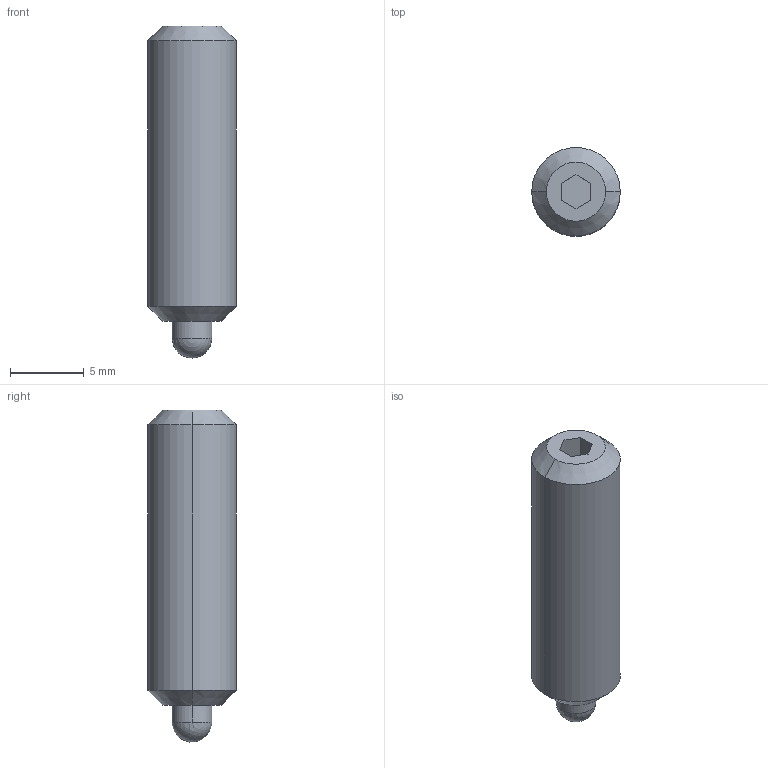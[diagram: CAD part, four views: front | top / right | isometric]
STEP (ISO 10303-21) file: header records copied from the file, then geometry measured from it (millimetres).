
FILE_DESCRIPTION (( 'STEP AP203' ), '1' );
FILE_NAME ('plh6-sus.STEP', '2021-10-26T05:06:37', ( '' ), ( '' ), 'SwSTEP 2.0', 'SolidWorks 2020', '' );
FILE_SCHEMA (( 'CONFIG_CONTROL_DESIGN' ));
Length unit declared in the file: millimetre
Products named in the file (1): plh6-sus
Bounding box: 6 x 6 x 22.49 mm (x, y, z)
Volume: 551.8 mm3; surface area: 441.7 mm2
Topology: 1 solids, 1 shells, 18 faces, 42 edges, 26 vertices
Faces by surface type: plane 9, cone 4, cylinder 4, sphere 1
Entity records: 559 total; most frequent: DIRECTION 88, CARTESIAN_POINT 81, ORIENTED_EDGE 76, EDGE_CURVE 38, AXIS2_PLACEMENT_3D 31, VECTOR 26, LINE 26, VERTEX_POINT 24
